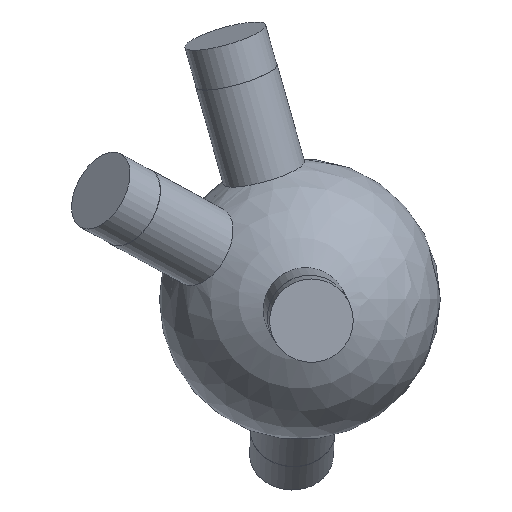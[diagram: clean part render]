
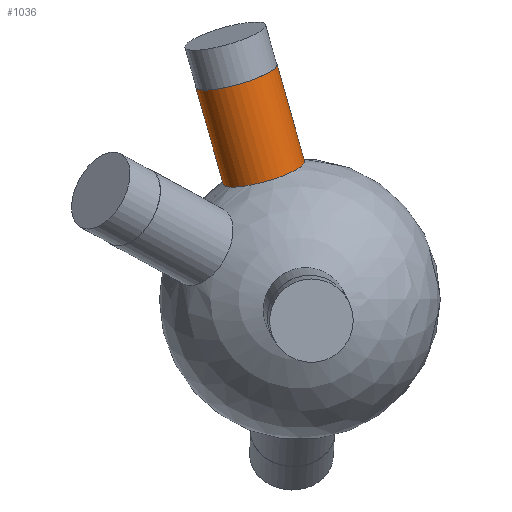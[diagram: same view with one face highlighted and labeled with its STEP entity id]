
A CAD part, top view. The second image highlights one B-rep face of the part: STEP entity #1036.
In plain terms, the highlighted cylindrical face has radius 6 mm (diameter 12 mm), a full revolution.
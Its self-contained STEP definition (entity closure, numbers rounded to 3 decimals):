
#33 = SPHERICAL_SURFACE('',#34,20.);
#34 = AXIS2_PLACEMENT_3D('',#35,#36,#37);
#35 = CARTESIAN_POINT('',(0.,0.,0.));
#36 = DIRECTION('',(0.,0.,1.));
#37 = DIRECTION('',(1.,0.,-0.));
#619 = EDGE_CURVE('',#620,#620,#622,.T.);
#620 = VERTEX_POINT('',#621);
#621 = CARTESIAN_POINT('',(0.684,19.581,4.012
    ));
#622 = SURFACE_CURVE('',#623,(#628,#690),.PCURVE_S1.);
#623 = CIRCLE('',#624,6.);
#624 = AXIS2_PLACEMENT_3D('',#625,#626,#627);
#625 = CARTESIAN_POINT('',(-5.089,17.945,
    4.012));
#626 = DIRECTION('',(-0.267,0.941,0.21));
#627 = DIRECTION('',(-0.962,-0.273,0.
    ));
#628 = PCURVE('',#33,#629);
#629 = DEFINITIONAL_REPRESENTATION('',(#630),#689);
#630 = B_SPLINE_CURVE_WITH_KNOTS('',8,(#631,#632,#633,#634,#635,#636,
    #637,#638,#639,#640,#641,#642,#643,#644,#645,#646,#647,#648,#649,
    #650,#651,#652,#653,#654,#655,#656,#657,#658,#659,#660,#661,#662,
    #663,#664,#665,#666,#667,#668,#669,#670,#671,#672,#673,#674,#675,
    #676,#677,#678,#679,#680,#681,#682,#683,#684,#685,#686,#687,#688),
  .UNSPECIFIED.,.F.,.F.,(9,7,7,7,7,7,7,7,9),(3.142,
    3.927,4.614,5.216,6.268,
    7.057,7.649,8.537,9.425),
  .UNSPECIFIED.);
#631 = CARTESIAN_POINT('',(1.536,0.202));
#632 = CARTESIAN_POINT('',(1.538,0.173));
#633 = CARTESIAN_POINT('',(1.543,0.143));
#634 = CARTESIAN_POINT('',(1.551,0.115));
#635 = CARTESIAN_POINT('',(1.562,0.087));
#636 = CARTESIAN_POINT('',(1.576,0.061));
#637 = CARTESIAN_POINT('',(1.593,0.036));
#638 = CARTESIAN_POINT('',(1.612,0.014));
#639 = CARTESIAN_POINT('',(1.652,-0.025));
#640 = CARTESIAN_POINT('',(1.672,-0.041));
#641 = CARTESIAN_POINT('',(1.694,-0.055));
#642 = CARTESIAN_POINT('',(1.717,-0.067));
#643 = CARTESIAN_POINT('',(1.741,-0.077));
#644 = CARTESIAN_POINT('',(1.766,-0.084));
#645 = CARTESIAN_POINT('',(1.792,-0.089));
#646 = CARTESIAN_POINT('',(1.84,-0.094));
#647 = CARTESIAN_POINT('',(1.863,-0.094));
#648 = CARTESIAN_POINT('',(1.886,-0.092));
#649 = CARTESIAN_POINT('',(1.908,-0.089));
#650 = CARTESIAN_POINT('',(1.93,-0.083));
#651 = CARTESIAN_POINT('',(1.952,-0.076));
#652 = CARTESIAN_POINT('',(1.973,-0.067));
#653 = CARTESIAN_POINT('',(2.027,-0.038));
#654 = CARTESIAN_POINT('',(2.059,-0.014));
#655 = CARTESIAN_POINT('',(2.088,0.014));
#656 = CARTESIAN_POINT('',(2.112,0.046));
#657 = CARTESIAN_POINT('',(2.132,0.082));
#658 = CARTESIAN_POINT('',(2.146,0.119));
#659 = CARTESIAN_POINT('',(2.155,0.158));
#660 = CARTESIAN_POINT('',(2.16,0.227));
#661 = CARTESIAN_POINT('',(2.16,0.257));
#662 = CARTESIAN_POINT('',(2.155,0.286));
#663 = CARTESIAN_POINT('',(2.148,0.315));
#664 = CARTESIAN_POINT('',(2.137,0.343));
#665 = CARTESIAN_POINT('',(2.123,0.37));
#666 = CARTESIAN_POINT('',(2.105,0.395));
#667 = CARTESIAN_POINT('',(2.068,0.435));
#668 = CARTESIAN_POINT('',(2.051,0.45));
#669 = CARTESIAN_POINT('',(2.032,0.465));
#670 = CARTESIAN_POINT('',(2.011,0.477));
#671 = CARTESIAN_POINT('',(1.989,0.488));
#672 = CARTESIAN_POINT('',(1.966,0.497));
#673 = CARTESIAN_POINT('',(1.942,0.504));
#674 = CARTESIAN_POINT('',(1.88,0.517));
#675 = CARTESIAN_POINT('',(1.841,0.52));
#676 = CARTESIAN_POINT('',(1.802,0.518));
#677 = CARTESIAN_POINT('',(1.764,0.512));
#678 = CARTESIAN_POINT('',(1.728,0.5));
#679 = CARTESIAN_POINT('',(1.694,0.485));
#680 = CARTESIAN_POINT('',(1.663,0.465));
#681 = CARTESIAN_POINT('',(1.609,0.42));
#682 = CARTESIAN_POINT('',(1.586,0.394));
#683 = CARTESIAN_POINT('',(1.567,0.365));
#684 = CARTESIAN_POINT('',(1.552,0.334));
#685 = CARTESIAN_POINT('',(1.542,0.302));
#686 = CARTESIAN_POINT('',(1.536,0.269));
#687 = CARTESIAN_POINT('',(1.534,0.235));
#688 = CARTESIAN_POINT('',(1.536,0.202));
#689 = ( GEOMETRIC_REPRESENTATION_CONTEXT(2) 
PARAMETRIC_REPRESENTATION_CONTEXT() REPRESENTATION_CONTEXT('2D SPACE',''
  ) );
#690 = PCURVE('',#691,#696);
#691 = CYLINDRICAL_SURFACE('',#692,6.);
#692 = AXIS2_PLACEMENT_3D('',#693,#694,#695);
#693 = CARTESIAN_POINT('',(0.,0.,0.));
#694 = DIRECTION('',(-0.267,0.941,0.21));
#695 = DIRECTION('',(0.962,0.273,0.));
#696 = DEFINITIONAL_REPRESENTATION('',(#697),#701);
#697 = LINE('',#698,#699);
#698 = CARTESIAN_POINT('',(-3.142,19.079));
#699 = VECTOR('',#700,1.);
#700 = DIRECTION('',(1.,0.));
#701 = ( GEOMETRIC_REPRESENTATION_CONTEXT(2) 
PARAMETRIC_REPRESENTATION_CONTEXT() REPRESENTATION_CONTEXT('2D SPACE',''
  ) );
#1036 = ADVANCED_FACE('',(#1037),#691,.T.);
#1037 = FACE_BOUND('',#1038,.T.);
#1038 = EDGE_LOOP('',(#1039,#1062,#1089,#1090));
#1039 = ORIENTED_EDGE('',*,*,#1040,.T.);
#1040 = EDGE_CURVE('',#620,#1041,#1043,.T.);
#1041 = VERTEX_POINT('',#1042);
#1042 = CARTESIAN_POINT('',(-3.223,33.359,
    7.093));
#1043 = SEAM_CURVE('',#1044,(#1048,#1055),.PCURVE_S1.);
#1044 = LINE('',#1045,#1046);
#1045 = CARTESIAN_POINT('',(5.772,1.637,
    0.));
#1046 = VECTOR('',#1047,1.);
#1047 = DIRECTION('',(-0.267,0.941,0.21));
#1048 = PCURVE('',#691,#1049);
#1049 = DEFINITIONAL_REPRESENTATION('',(#1050),#1054);
#1050 = LINE('',#1051,#1052);
#1051 = CARTESIAN_POINT('',(6.283,-0.));
#1052 = VECTOR('',#1053,1.);
#1053 = DIRECTION('',(0.,1.));
#1054 = ( GEOMETRIC_REPRESENTATION_CONTEXT(2) 
PARAMETRIC_REPRESENTATION_CONTEXT() REPRESENTATION_CONTEXT('2D SPACE',''
  ) );
#1055 = PCURVE('',#691,#1056);
#1056 = DEFINITIONAL_REPRESENTATION('',(#1057),#1061);
#1057 = LINE('',#1058,#1059);
#1058 = CARTESIAN_POINT('',(0.,-0.));
#1059 = VECTOR('',#1060,1.);
#1060 = DIRECTION('',(0.,1.));
#1061 = ( GEOMETRIC_REPRESENTATION_CONTEXT(2) 
PARAMETRIC_REPRESENTATION_CONTEXT() REPRESENTATION_CONTEXT('2D SPACE',''
  ) );
#1062 = ORIENTED_EDGE('',*,*,#1063,.F.);
#1063 = EDGE_CURVE('',#1041,#1041,#1064,.T.);
#1064 = SURFACE_CURVE('',#1065,(#1070,#1077),.PCURVE_S1.);
#1065 = CIRCLE('',#1066,6.);
#1066 = AXIS2_PLACEMENT_3D('',#1067,#1068,#1069);
#1067 = CARTESIAN_POINT('',(-8.996,31.723,
    7.093));
#1068 = DIRECTION('',(-0.267,0.941,0.21));
#1069 = DIRECTION('',(0.962,0.273,0.)
  );
#1070 = PCURVE('',#691,#1071);
#1071 = DEFINITIONAL_REPRESENTATION('',(#1072),#1076);
#1072 = LINE('',#1073,#1074);
#1073 = CARTESIAN_POINT('',(0.,33.728));
#1074 = VECTOR('',#1075,1.);
#1075 = DIRECTION('',(1.,0.));
#1076 = ( GEOMETRIC_REPRESENTATION_CONTEXT(2) 
PARAMETRIC_REPRESENTATION_CONTEXT() REPRESENTATION_CONTEXT('2D SPACE',''
  ) );
#1077 = PCURVE('',#1078,#1083);
#1078 = PLANE('',#1079);
#1079 = AXIS2_PLACEMENT_3D('',#1080,#1081,#1082);
#1080 = CARTESIAN_POINT('',(-8.996,31.723,
    7.093));
#1081 = DIRECTION('',(-0.267,0.941,0.21));
#1082 = DIRECTION('',(0.962,0.273,0.)
  );
#1083 = DEFINITIONAL_REPRESENTATION('',(#1084),#1088);
#1084 = CIRCLE('',#1085,6.);
#1085 = AXIS2_PLACEMENT_2D('',#1086,#1087);
#1086 = CARTESIAN_POINT('',(0.,0.));
#1087 = DIRECTION('',(1.,0.));
#1088 = ( GEOMETRIC_REPRESENTATION_CONTEXT(2) 
PARAMETRIC_REPRESENTATION_CONTEXT() REPRESENTATION_CONTEXT('2D SPACE',''
  ) );
#1089 = ORIENTED_EDGE('',*,*,#1040,.F.);
#1090 = ORIENTED_EDGE('',*,*,#619,.T.);
